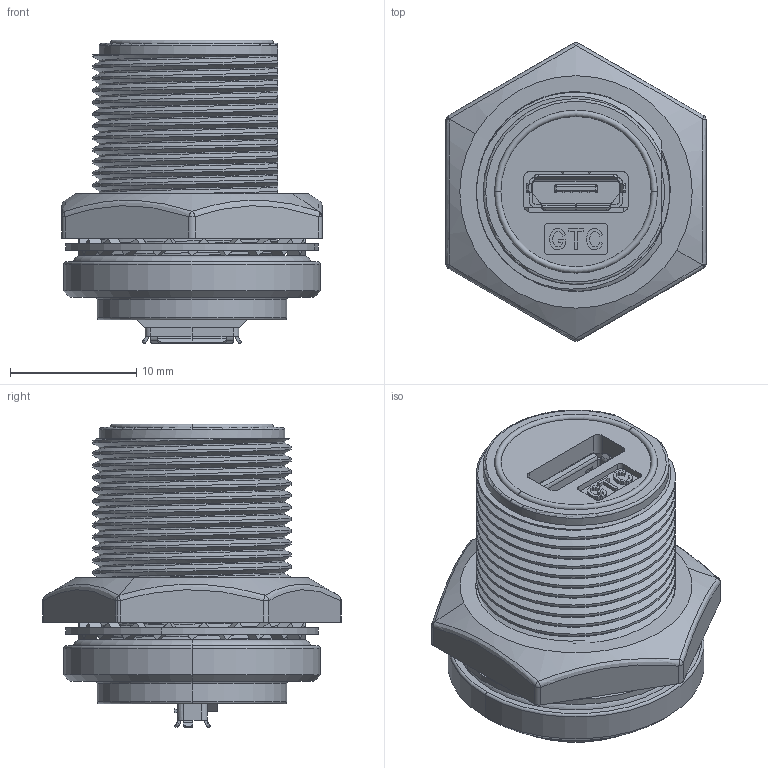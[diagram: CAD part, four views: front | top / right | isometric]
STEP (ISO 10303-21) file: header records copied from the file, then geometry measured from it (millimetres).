
FILE_DESCRIPTION (( 'STEP AP203' ), '1' );
FILE_NAME ('RR-21A300-80.STEP', '2025-02-14T06:26:15', ( '' ), ( '' ), 'SwSTEP 2.0', 'SolidWorks 2019', '' );
FILE_SCHEMA (( 'CONFIG_CONTROL_DESIGN' ));
Length unit declared in the file: millimetre
Products named in the file (1): RR-21A300-80
Bounding box: 20.6 x 23.63 x 24.05 mm (x, y, z)
Volume: 4164.9 mm3; surface area: 4953.3 mm2
Topology: 4 solids, 5 shells, 1857 faces, 5216 edges, 3346 vertices
Faces by surface type: plane 1056, cylinder 552, bspline 173, sphere 30, torus 24, cone 22
Entity records: 103219 total; most frequent: CARTESIAN_POINT 57138, ORIENTED_EDGE 10408, DIRECTION 8721, EDGE_CURVE 5204, VERTEX_POINT 3346, VECTOR 3167, LINE 3167, AXIS2_PLACEMENT_3D 2777
